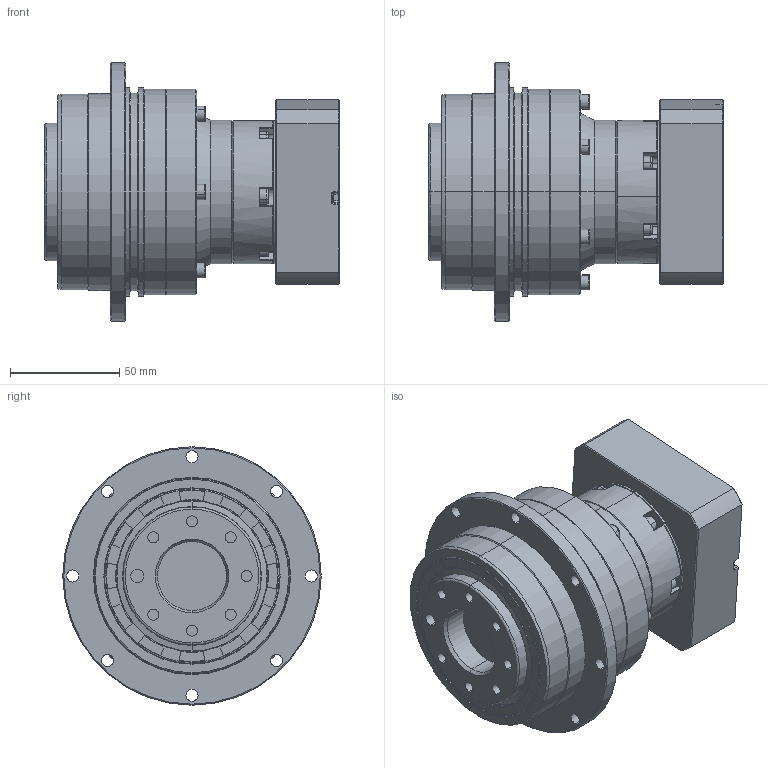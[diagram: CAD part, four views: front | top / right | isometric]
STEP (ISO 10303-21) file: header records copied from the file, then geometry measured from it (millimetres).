
FILE_DESCRIPTION (( 'STEP AP214' ), '1' );
FILE_NAME ('FAD090M1-L2-19-70-90-M5-42.STEP', '2021-04-27T05:55:35', ( '微软用户' ), ( '微软中国' ), 'SwSTEP 2.0', 'SolidWorks 2014', '' );
FILE_SCHEMA (( 'AUTOMOTIVE_DESIGN' ));
Length unit declared in the file: millimetre
Products named in the file (38): 输出内齿圈壳体VRT090D-Z108_3; hexagon socket head cap screws gb1_GB_FASTENER_SCREWS_HSHCS M4X16-N; FAD090M1-L2-19-70-90-M5-42; 坶踡遠23-43.5-12(1)_2; 输入太阳齿轮060M1-19_2; hex socket set screws with cone point gb_GB_FASTENER_SCREWS_HSCP M10X10-N_4; 13-输入法兰VRT064M1-70X30XM5-200525_2; 6-输入端壳体VRT064M1_2; 一级内齿圈壳体VRT064D-Z108_4; 蚐猾63807_3; 怀堤俴陎殤VRT090-5D_3
Assembly tree (27 placements, depth 2):
  输出内齿圈壳体VRT090D-Z108_3
  hexagon socket head cap screws gb1_GB_FASTENER_SCREWS_HSHCS M4X16-N
  FAD090M1-L2-19-70-90-M5-42
    输出内齿圈壳体VRT090D-Z108_3
    怀堤俴陎殤VRT090-5D_3
    蚐猾63807_3
    一级内齿圈壳体VRT064D-Z108_4
    6-输入端壳体VRT064M1_2
    13-输入法兰VRT064M1-70X30XM5-200525_2
    hex socket set screws with cone point gb_GB_FASTENER_SCREWS_HSCP M10X10-N_4
    hexagon socket head cap screws gb1_GB_FASTENER_SCREWS_HSHCS M4X16-N  x18
    输入太阳齿轮060M1-19_2
    坶踡遠23-43.5-12(1)_2
  hexagon socket head cap screws gb1_GB_FASTENER_SCREWS_HSHCS M4X16-N
  hexagon socket head cap screws gb1_GB_FASTENER_SCREWS_HSHCS M4X16-N
Bounding box: 134.5 x 118 x 118 mm (x, y, z)
Volume: 635122.4 mm3; surface area: 156423.3 mm2
Topology: 28 solids, 28 shells, 1255 faces, 2939 edges, 1760 vertices
Faces by surface type: plane 481, cylinder 359, cone 243, bspline 166, torus 6
Entity records: 36261 total; most frequent: CARTESIAN_POINT 16719, DIRECTION 3953, ORIENTED_EDGE 3866, EDGE_CURVE 1933, AXIS2_PLACEMENT_3D 1583, VERTEX_POINT 1199, EDGE_LOOP 966, CIRCLE 854
